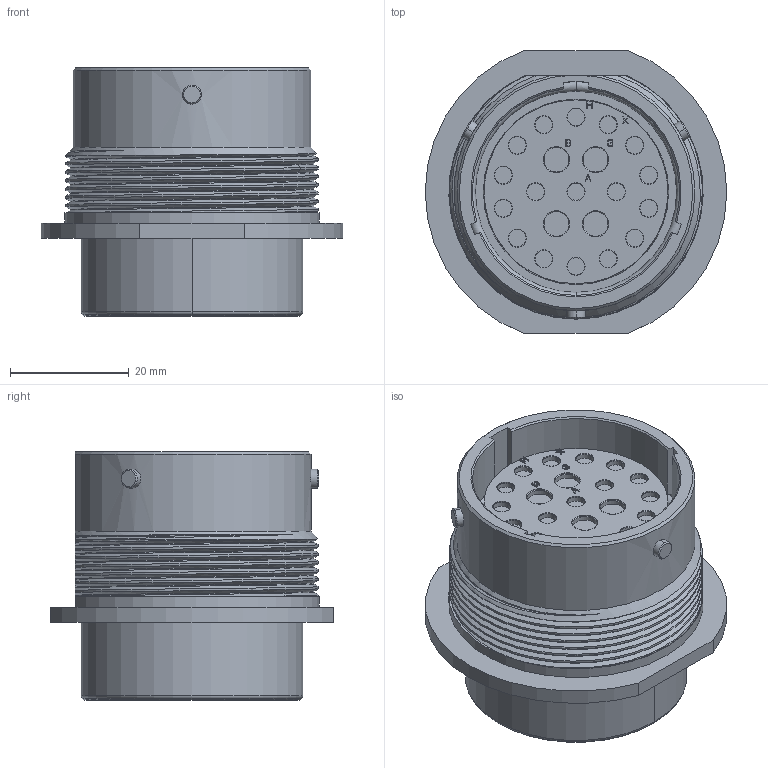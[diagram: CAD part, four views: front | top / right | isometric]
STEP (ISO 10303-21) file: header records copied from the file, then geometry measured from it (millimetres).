
FILE_DESCRIPTION((''),'2;1');
FILE_NAME('C-HD34-24-21SE','2018-02-23T',('workeradm'),('TE Connectivity Ltd.'),'CREO PARAMETRIC BY PTC INC, 2016050','CREO PARAMETRIC BY PTC INC, 2016050','');
FILE_SCHEMA(('AUTOMOTIVE_DESIGN { 1 0 10303 214 1 1 1 1 }'));
Length unit declared in the file: millimetre
Products named in the file (1): C-HD34-24-21SE
Bounding box: 50.8 x 47.62 x 41.83 mm (x, y, z)
Volume: 45596.5 mm3; surface area: 13678.2 mm2
Topology: 1 solids, 1 shells, 568 faces, 1297 edges, 814 vertices
Faces by surface type: plane 219, cylinder 207, bspline 65, cone 59, torus 18
Entity records: 22298 total; most frequent: CARTESIAN_POINT 9413, DIRECTION 2722, ORIENTED_EDGE 2594, EDGE_CURVE 1297, AXIS2_PLACEMENT_3D 1016, VERTEX_POINT 814, VECTOR 690, LINE 690
